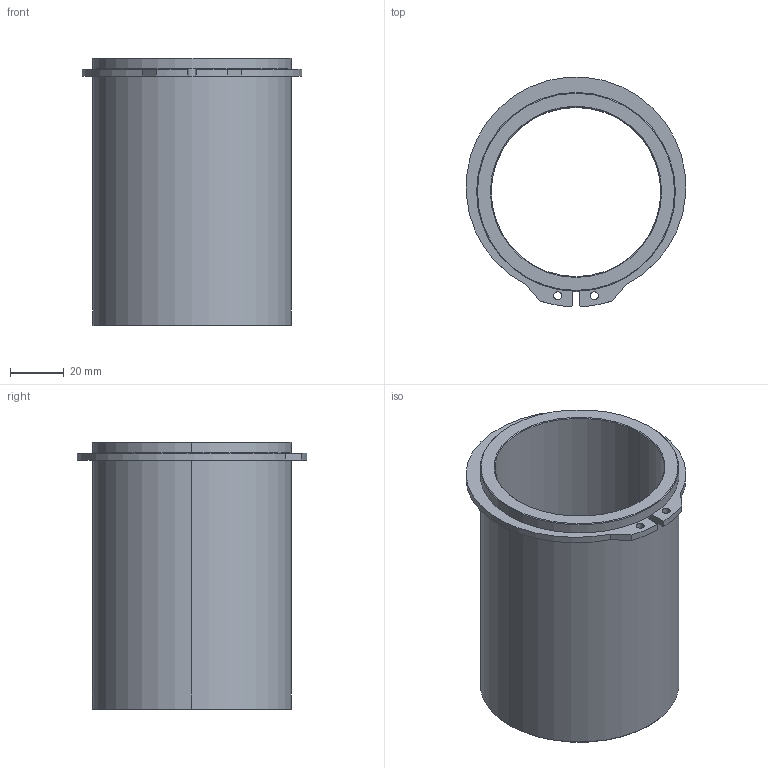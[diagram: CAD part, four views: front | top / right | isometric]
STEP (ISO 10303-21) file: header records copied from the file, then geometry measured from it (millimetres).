
FILE_DESCRIPTION((''),'2;1');
FILE_NAME('C13_063_100.stp','2008-12-17T15:04:29',(''),(''),'Mechanical Desktop 2009','Mechanical Desktop 2009',', , ');
FILE_SCHEMA(('CONFIG_CONTROL_DESIGN'));
Length unit declared in the file: millimetre
Products named in the file (2): Product; blmdl1
Assembly tree (1 placements, depth 2):
  Product
    blmdl1
Bounding box: 81.98 x 85.7 x 100 mm (x, y, z)
Volume: 120361.3 mm3; surface area: 49908 mm2
Topology: 2 solids, 2 shells, 34 faces, 76 edges, 48 vertices
Faces by surface type: cylinder 16, plane 10, cone 8
Entity records: 1075 total; most frequent: DIRECTION 188, CARTESIAN_POINT 160, ORIENTED_EDGE 152, AXIS2_PLACEMENT_3D 76, EDGE_CURVE 76, VERTEX_POINT 48, EDGE_LOOP 42, CIRCLE 40
